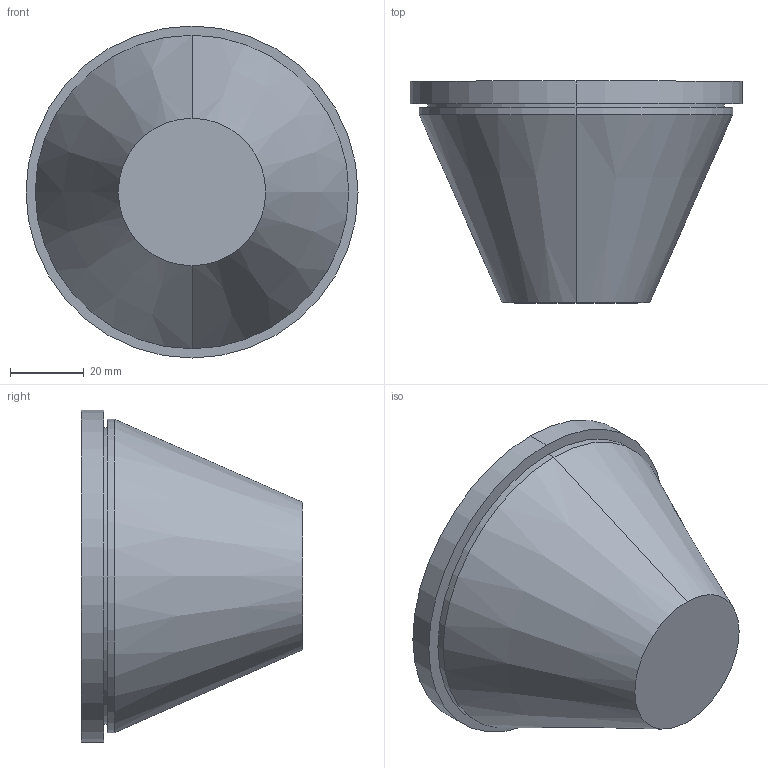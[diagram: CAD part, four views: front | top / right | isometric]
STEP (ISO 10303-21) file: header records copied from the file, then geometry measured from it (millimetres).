
FILE_DESCRIPTION (( 'STEP AP203' ), '1' );
FILE_NAME ('100573.STEP', '2012-10-25T05:14:37', ( 'Joni' ), ( 'Hewlett-Packard Company' ), 'SwSTEP 2.0', 'SolidWorks 2012', '' );
FILE_SCHEMA (( 'CONFIG_CONTROL_DESIGN' ));
Length unit declared in the file: millimetre
Products named in the file (1): 100573
Bounding box: 90 x 60.1 x 90 mm (x, y, z)
Volume: 218370.6 mm3; surface area: 22927.2 mm2
Topology: 1 solids, 1 shells, 12 faces, 22 edges, 14 vertices
Faces by surface type: cylinder 6, plane 4, cone 2
Entity records: 381 total; most frequent: DIRECTION 62, CARTESIAN_POINT 49, ORIENTED_EDGE 44, AXIS2_PLACEMENT_3D 27, EDGE_CURVE 22, VERTEX_POINT 14, EDGE_LOOP 14, CIRCLE 14
